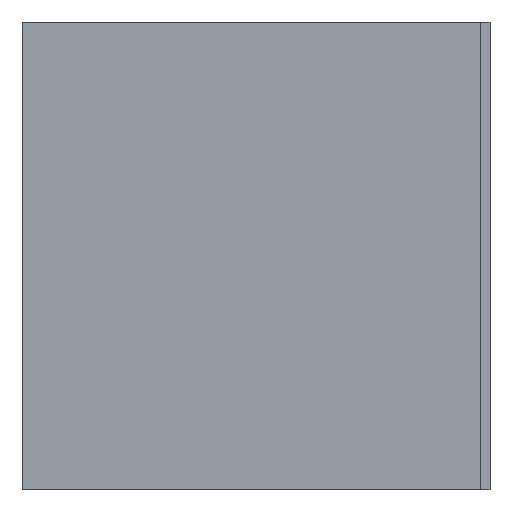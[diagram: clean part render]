
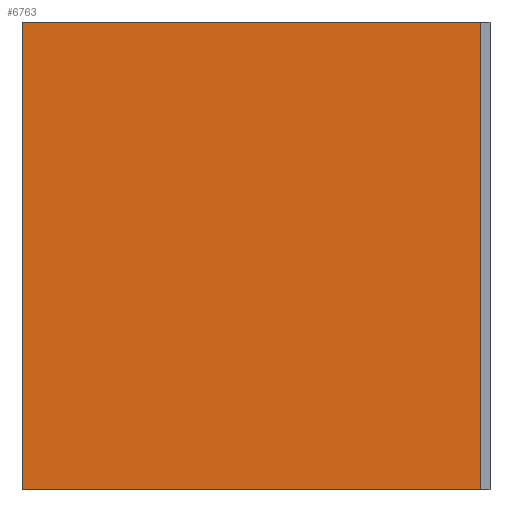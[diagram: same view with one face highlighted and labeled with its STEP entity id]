
A CAD part, left-side view. The second image highlights one B-rep face of the part: STEP entity #6763.
In plain terms, the highlighted planar face has unit normal (-1, 0, 0).
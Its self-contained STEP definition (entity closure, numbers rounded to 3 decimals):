
#653=PLANE('',#7245);
#1044=FACE_OUTER_BOUND('',#1450,.T.);
#1450=EDGE_LOOP('',(#6009,#6010,#6011,#6012));
#1822=LINE('',#27743,#2211);
#1841=LINE('',#27794,#2230);
#1842=LINE('',#27797,#2231);
#1843=LINE('',#27798,#2232);
#2211=VECTOR('',#8503,10.);
#2230=VECTOR('',#8558,10.);
#2231=VECTOR('',#8561,10.);
#2232=VECTOR('',#8562,10.);
#2963=VERTEX_POINT('',#27740);
#2964=VERTEX_POINT('',#27742);
#2978=VERTEX_POINT('',#27792);
#2979=VERTEX_POINT('',#27796);
#3972=EDGE_CURVE('',#2963,#2964,#1822,.T.);
#3999=EDGE_CURVE('',#2963,#2978,#1841,.T.);
#4000=EDGE_CURVE('',#2979,#2978,#1842,.T.);
#4001=EDGE_CURVE('',#2964,#2979,#1843,.T.);
#6009=ORIENTED_EDGE('',*,*,#3999,.T.);
#6010=ORIENTED_EDGE('',*,*,#4000,.F.);
#6011=ORIENTED_EDGE('',*,*,#4001,.F.);
#6012=ORIENTED_EDGE('',*,*,#3972,.F.);
#6763=ADVANCED_FACE('',(#1044),#653,.T.);
#7245=AXIS2_PLACEMENT_3D('',#27795,#8559,#8560);
#8503=DIRECTION('',(0.,1.,0.));
#8558=DIRECTION('',(0.,0.,1.));
#8559=DIRECTION('center_axis',(-1.,0.,0.));
#8560=DIRECTION('ref_axis',(0.,-1.,0.));
#8561=DIRECTION('',(0.,-1.,0.));
#8562=DIRECTION('',(0.,0.,1.));
#27740=CARTESIAN_POINT('',(-95.25,-35.35,-36.85));
#27742=CARTESIAN_POINT('',(-95.25,36.85,-36.85));
#27743=CARTESIAN_POINT('',(-95.25,-36.85,-36.85));
#27792=CARTESIAN_POINT('',(-95.25,-35.35,36.85));
#27794=CARTESIAN_POINT('',(-95.25,-35.35,0.));
#27795=CARTESIAN_POINT('Origin',(-95.25,36.85,0.));
#27796=CARTESIAN_POINT('',(-95.25,36.85,36.85));
#27797=CARTESIAN_POINT('',(-95.25,-36.85,36.85));
#27798=CARTESIAN_POINT('',(-95.25,36.85,0.));
